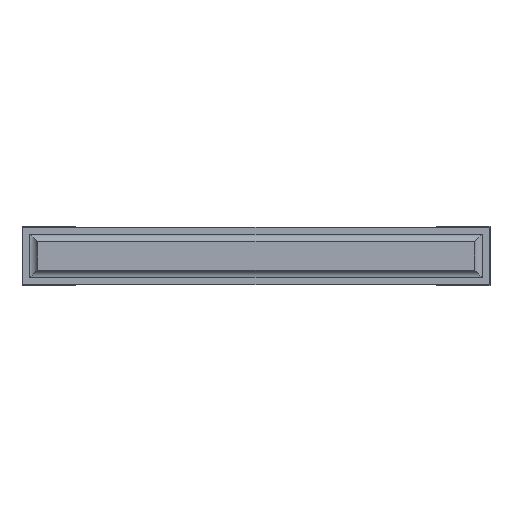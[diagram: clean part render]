
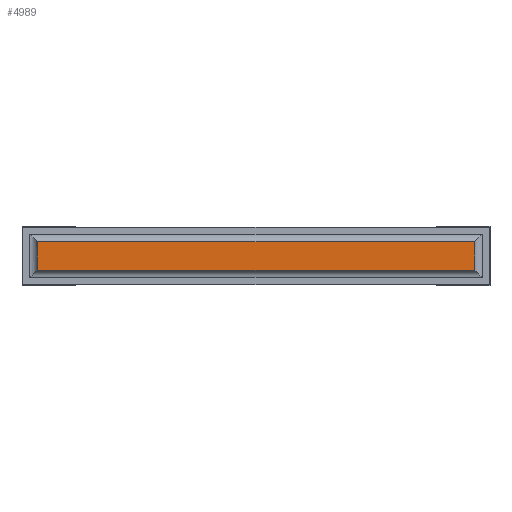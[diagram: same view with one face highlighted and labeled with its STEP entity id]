
A CAD part, front view. The second image highlights one B-rep face of the part: STEP entity #4989.
In plain terms, the highlighted planar face has unit normal (0, -1, 0).
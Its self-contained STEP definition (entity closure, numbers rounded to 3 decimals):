
#199=FACE_OUTER_BOUND('',#510,.T.);
#510=EDGE_LOOP('',(#3339,#3340,#3341,#3342));
#829=LINE('',#7111,#1481);
#835=LINE('',#7128,#1487);
#845=LINE('',#7150,#1497);
#846=LINE('',#7152,#1498);
#1481=VECTOR('',#5707,10.);
#1487=VECTOR('',#5725,10.);
#1497=VECTOR('',#5745,10.);
#1498=VECTOR('',#5748,10.);
#2133=VERTEX_POINT('',#7108);
#2134=VERTEX_POINT('',#7110);
#2139=VERTEX_POINT('',#7126);
#2146=VERTEX_POINT('',#7148);
#2589=EDGE_CURVE('',#2134,#2133,#829,.T.);
#2598=EDGE_CURVE('',#2139,#2133,#835,.T.);
#2609=EDGE_CURVE('',#2146,#2139,#845,.T.);
#2610=EDGE_CURVE('',#2134,#2146,#846,.T.);
#3339=ORIENTED_EDGE('',*,*,#2598,.F.);
#3340=ORIENTED_EDGE('',*,*,#2609,.F.);
#3341=ORIENTED_EDGE('',*,*,#2610,.F.);
#3342=ORIENTED_EDGE('',*,*,#2589,.T.);
#4739=PLANE('',#5339);
#4989=ADVANCED_FACE('',(#199),#4739,.T.);
#5339=AXIS2_PLACEMENT_3D('',#7151,#5746,#5747);
#5707=DIRECTION('',(0.,0.,-1.));
#5725=DIRECTION('',(-1.,0.,0.));
#5745=DIRECTION('',(0.,0.,-1.));
#5746=DIRECTION('center_axis',(0.,-1.,0.));
#5747=DIRECTION('ref_axis',(0.,0.,-1.));
#5748=DIRECTION('',(1.,0.,0.));
#7108=CARTESIAN_POINT('',(0.1,0.,0.1));
#7110=CARTESIAN_POINT('',(0.1,0.,0.28));
#7111=CARTESIAN_POINT('',(0.1,0.,0.28));
#7126=CARTESIAN_POINT('',(2.9,0.,0.1));
#7128=CARTESIAN_POINT('',(2.9,0.,0.1));
#7148=CARTESIAN_POINT('',(2.9,0.,0.28));
#7150=CARTESIAN_POINT('',(2.9,0.,0.28));
#7151=CARTESIAN_POINT('Origin',(2.9,0.,0.19));
#7152=CARTESIAN_POINT('',(0.1,0.,0.28));
